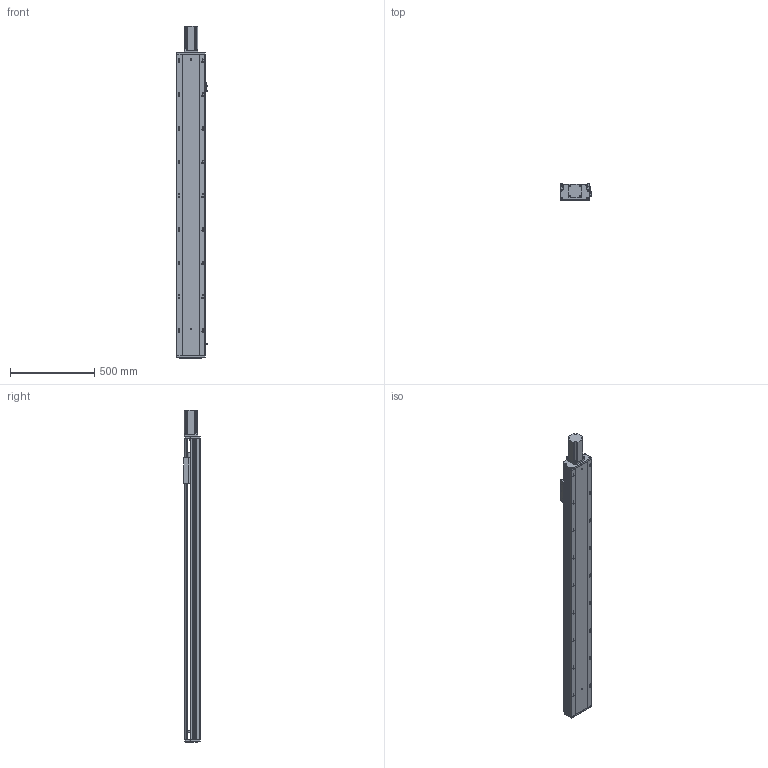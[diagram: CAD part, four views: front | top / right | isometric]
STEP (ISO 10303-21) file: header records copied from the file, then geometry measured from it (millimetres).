
FILE_DESCRIPTION (( 'STEP AP203' ), '1' );
FILE_NAME ('RY170-L2510-1200-MK.SLDASM_1450.step', '2021-02-20T05:12:19', ( '盈信电脑' ), ( '东莞市道滘镇水果街19号' ), 'SwSTEP 2.0', 'SolidWorks 2012', '' );
FILE_SCHEMA (( 'CONFIG_CONTROL_DESIGN' ));
Length unit declared in the file: millimetre
Products named in the file (12): 750W萇儂梓袧蛌諉啣; RY170-L2510-1200-MK.SLDASM_1450; 侂狟750W萇儂ㄗ80遺ㄘ; 滅袉蝶18-28; RY170外置感应片(200共用）; RY170ヶ醱裔啣; 滅袉蝶18-15; RY170臏賑輸25佪裝蹟譫; RY170綴裔啣; 覜茼ん672; RY170-1200倰第菁釱-MK_1450; RY170-1200倰第裔啣-MK_1450
Assembly tree (13 placements, depth 2):
  RY170-L2510-1200-MK.SLDASM_1450
    RY170-1200倰第菁釱-MK_1450
    RY170-1200倰第裔啣-MK_1450
    RY170臏賑輸25佪裝蹟譫
    RY170綴裔啣
    覜茼ん672  x3
    RY170外置感应片(200共用）
    RY170ヶ醱裔啣
    滅袉蝶18-28
    滅袉蝶18-15
    750W萇儂梓袧蛌諉啣
    侂狟750W萇儂ㄗ80遺ㄘ
Bounding box: 183.7 x 97 x 1971 mm (x, y, z)
Volume: 9131942.7 mm3; surface area: 2921178.7 mm2
Topology: 13 solids, 13 shells, 1708 faces, 5027 edges, 3184 vertices
Faces by surface type: cylinder 790, plane 711, cone 203, bspline 4
Entity records: 54570 total; most frequent: CARTESIAN_POINT 12542, ORIENTED_EDGE 8742, DIRECTION 8378, EDGE_CURVE 4371, AXIS2_PLACEMENT_3D 2968, VERTEX_POINT 2864, LINE 2442, VECTOR 2442
